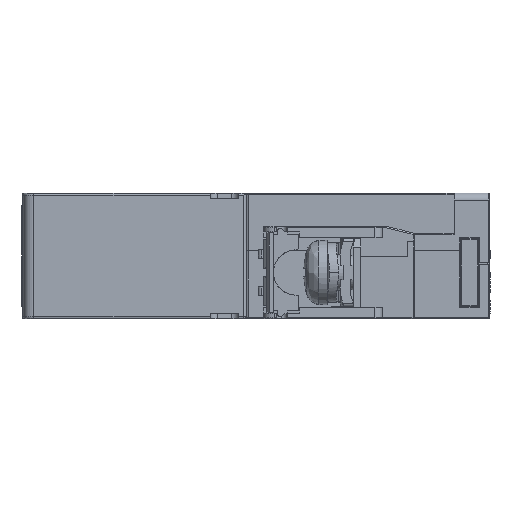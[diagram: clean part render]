
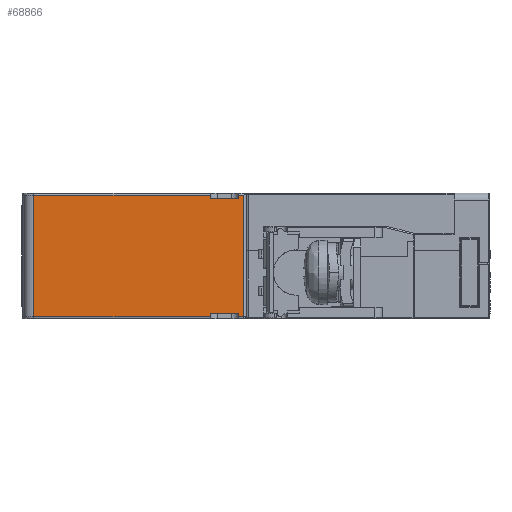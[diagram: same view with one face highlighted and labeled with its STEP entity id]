
A CAD part, left-side view. The second image highlights one B-rep face of the part: STEP entity #68866.
In plain terms, the highlighted planar face has unit normal (-1, 0, 0) as drawn and (1, 0, 0) by its records, which use the part's own axes.
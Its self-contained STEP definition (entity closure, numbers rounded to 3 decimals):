
#755 = CARTESIAN_POINT ( 'NONE',  ( 4.8, 1., -8.05 ) ) ;
#2262 = ORIENTED_EDGE ( 'NONE', *, *, #25486, .F. ) ;
#2630 = EDGE_CURVE ( 'NONE', #9033, #68321, #33499, .T. ) ;
#4423 = CARTESIAN_POINT ( 'NONE',  ( 4.8, 0., -8.45 ) ) ;
#5535 = FACE_OUTER_BOUND ( 'NONE', #60173, .T. ) ;
#6025 = EDGE_CURVE ( 'NONE', #28022, #38753, #34963, .T. ) ;
#6360 = EDGE_CURVE ( 'NONE', #53269, #36555, #73569, .T. ) ;
#7511 = EDGE_CURVE ( 'NONE', #17852, #46927, #21175, .T. ) ;
#7721 = VECTOR ( 'NONE', #54449, 1000. ) ;
#7796 = CARTESIAN_POINT ( 'NONE',  ( 4.8, 29.5, 8.45 ) ) ;
#8539 = VERTEX_POINT ( 'NONE', #15355 ) ;
#9033 = VERTEX_POINT ( 'NONE', #45041 ) ;
#9708 = DIRECTION ( 'NONE',  ( 0., 1., 0. ) ) ;
#10529 = CARTESIAN_POINT ( 'NONE',  ( 4.8, 0.3, -8.45 ) ) ;
#12325 = CARTESIAN_POINT ( 'NONE',  ( 4.8, 5., -8.05 ) ) ;
#12674 = EDGE_CURVE ( 'NONE', #36555, #73313, #64202, .T. ) ;
#15196 = CARTESIAN_POINT ( 'NONE',  ( 4.8, 5., -8.05 ) ) ;
#15355 = CARTESIAN_POINT ( 'NONE',  ( 4.8, 29.5, -8.45 ) ) ;
#15807 = CARTESIAN_POINT ( 'NONE',  ( 4.8, 5., 8.75 ) ) ;
#16601 = EDGE_CURVE ( 'NONE', #46927, #8539, #59091, .T. ) ;
#16654 = ORIENTED_EDGE ( 'NONE', *, *, #64876, .F. ) ;
#17519 = DIRECTION ( 'NONE',  ( 0., -1., 0. ) ) ;
#17852 = VERTEX_POINT ( 'NONE', #69782 ) ;
#18652 = CARTESIAN_POINT ( 'NONE',  ( 4.8, 1., -8.05 ) ) ;
#18897 = LINE ( 'NONE', #75340, #72615 ) ;
#19860 = DIRECTION ( 'NONE',  ( 0., -1., 0. ) ) ;
#20105 = VERTEX_POINT ( 'NONE', #10529 ) ;
#21175 = LINE ( 'NONE', #53944, #30650 ) ;
#21184 = CARTESIAN_POINT ( 'NONE',  ( 4.8, 5., 8.05 ) ) ;
#22430 = EDGE_CURVE ( 'NONE', #60665, #53269, #18897, .T. ) ;
#23154 = DIRECTION ( 'NONE',  ( 0., -1., 0. ) ) ;
#24214 = DIRECTION ( 'NONE',  ( 0., 1., 0. ) ) ;
#24246 = LINE ( 'NONE', #4423, #35571 ) ;
#24304 = DIRECTION ( 'NONE',  ( -1., 0., 0. ) ) ;
#24528 = CARTESIAN_POINT ( 'NONE',  ( 4.8, 5., -8.45 ) ) ;
#25486 = EDGE_CURVE ( 'NONE', #73313, #17852, #76882, .T. ) ;
#26443 = CARTESIAN_POINT ( 'NONE',  ( 4.8, 1., 8.45 ) ) ;
#27079 = VECTOR ( 'NONE', #23154, 1000. ) ;
#28022 = VERTEX_POINT ( 'NONE', #15196 ) ;
#28445 = EDGE_CURVE ( 'NONE', #28022, #68321, #68956, .T. ) ;
#28977 = CARTESIAN_POINT ( 'NONE',  ( 4.8, 29.5, 8.75 ) ) ;
#30650 = VECTOR ( 'NONE', #35005, 1000. ) ;
#31888 = ORIENTED_EDGE ( 'NONE', *, *, #2630, .T. ) ;
#32563 = DIRECTION ( 'NONE',  ( 0., 0., 1. ) ) ;
#33499 = LINE ( 'NONE', #18652, #43856 ) ;
#34963 = LINE ( 'NONE', #12325, #7721 ) ;
#35005 = DIRECTION ( 'NONE',  ( 0., 1., 0. ) ) ;
#35207 = ORIENTED_EDGE ( 'NONE', *, *, #7511, .F. ) ;
#35571 = VECTOR ( 'NONE', #17519, 1000. ) ;
#36130 = ORIENTED_EDGE ( 'NONE', *, *, #12674, .F. ) ;
#36555 = VERTEX_POINT ( 'NONE', #54108 ) ;
#36629 = ORIENTED_EDGE ( 'NONE', *, *, #16601, .F. ) ;
#37757 = VECTOR ( 'NONE', #76779, 1000. ) ;
#38753 = VERTEX_POINT ( 'NONE', #24528 ) ;
#40322 = ORIENTED_EDGE ( 'NONE', *, *, #55090, .F. ) ;
#41043 = CARTESIAN_POINT ( 'NONE',  ( 4.8, 0., -8.45 ) ) ;
#43856 = VECTOR ( 'NONE', #72878, 1000. ) ;
#43897 = VECTOR ( 'NONE', #45266, 1000. ) ;
#44046 = EDGE_CURVE ( 'NONE', #20105, #60665, #60765, .T. ) ;
#44666 = CARTESIAN_POINT ( 'NONE',  ( 4.8, 0.3, 8.75 ) ) ;
#45041 = CARTESIAN_POINT ( 'NONE',  ( 4.8, 1., -8.45 ) ) ;
#45266 = DIRECTION ( 'NONE',  ( 0., 0., 1. ) ) ;
#46822 = VECTOR ( 'NONE', #71120, 1000. ) ;
#46927 = VERTEX_POINT ( 'NONE', #7796 ) ;
#48165 = VECTOR ( 'NONE', #24214, 1000. ) ;
#48220 = PLANE ( 'NONE',  #68755 ) ;
#53269 = VERTEX_POINT ( 'NONE', #26443 ) ;
#53708 = CARTESIAN_POINT ( 'NONE',  ( 4.8, 0., 8.05 ) ) ;
#53944 = CARTESIAN_POINT ( 'NONE',  ( 4.8, 0., 8.45 ) ) ;
#54108 = CARTESIAN_POINT ( 'NONE',  ( 4.8, 1., 8.05 ) ) ;
#54323 = CARTESIAN_POINT ( 'NONE',  ( 4.8, 0., 8.75 ) ) ;
#54449 = DIRECTION ( 'NONE',  ( 0., 0., -1. ) ) ;
#55090 = EDGE_CURVE ( 'NONE', #8539, #38753, #66683, .T. ) ;
#56249 = ORIENTED_EDGE ( 'NONE', *, *, #22430, .F. ) ;
#57229 = CARTESIAN_POINT ( 'NONE',  ( 4.8, 0.3, 8.45 ) ) ;
#59091 = LINE ( 'NONE', #28977, #46822 ) ;
#60173 = EDGE_LOOP ( 'NONE', ( #76094, #56249, #66861, #16654, #31888, #69798, #75114, #40322, #36629, #35207, #2262, #36130 ) ) ;
#60665 = VERTEX_POINT ( 'NONE', #57229 ) ;
#60765 = LINE ( 'NONE', #44666, #63600 ) ;
#61996 = CARTESIAN_POINT ( 'NONE',  ( 4.8, 0., -8.05 ) ) ;
#63600 = VECTOR ( 'NONE', #32563, 1000. ) ;
#64202 = LINE ( 'NONE', #53708, #48165 ) ;
#64876 = EDGE_CURVE ( 'NONE', #9033, #20105, #24246, .T. ) ;
#66442 = DIRECTION ( 'NONE',  ( 0., 0., 1. ) ) ;
#66683 = LINE ( 'NONE', #41043, #27079 ) ;
#66861 = ORIENTED_EDGE ( 'NONE', *, *, #44046, .F. ) ;
#68321 = VERTEX_POINT ( 'NONE', #755 ) ;
#68755 = AXIS2_PLACEMENT_3D ( 'NONE', #54323, #24304, #66442 ) ;
#68866 = ADVANCED_FACE ( 'NONE', ( #5535 ), #48220, .F. ) ;
#68956 = LINE ( 'NONE', #61996, #69896 ) ;
#69782 = CARTESIAN_POINT ( 'NONE',  ( 4.8, 5., 8.45 ) ) ;
#69798 = ORIENTED_EDGE ( 'NONE', *, *, #28445, .F. ) ;
#69896 = VECTOR ( 'NONE', #19860, 1000. ) ;
#71120 = DIRECTION ( 'NONE',  ( 0., 0., -1. ) ) ;
#72615 = VECTOR ( 'NONE', #9708, 1000. ) ;
#72878 = DIRECTION ( 'NONE',  ( 0., 0., 1. ) ) ;
#73313 = VERTEX_POINT ( 'NONE', #21184 ) ;
#73569 = LINE ( 'NONE', #75723, #37757 ) ;
#75114 = ORIENTED_EDGE ( 'NONE', *, *, #6025, .T. ) ;
#75340 = CARTESIAN_POINT ( 'NONE',  ( 4.8, 0., 8.45 ) ) ;
#75723 = CARTESIAN_POINT ( 'NONE',  ( 4.8, 1., 8.75 ) ) ;
#76094 = ORIENTED_EDGE ( 'NONE', *, *, #6360, .F. ) ;
#76779 = DIRECTION ( 'NONE',  ( 0., 0., -1. ) ) ;
#76882 = LINE ( 'NONE', #15807, #43897 ) ;
